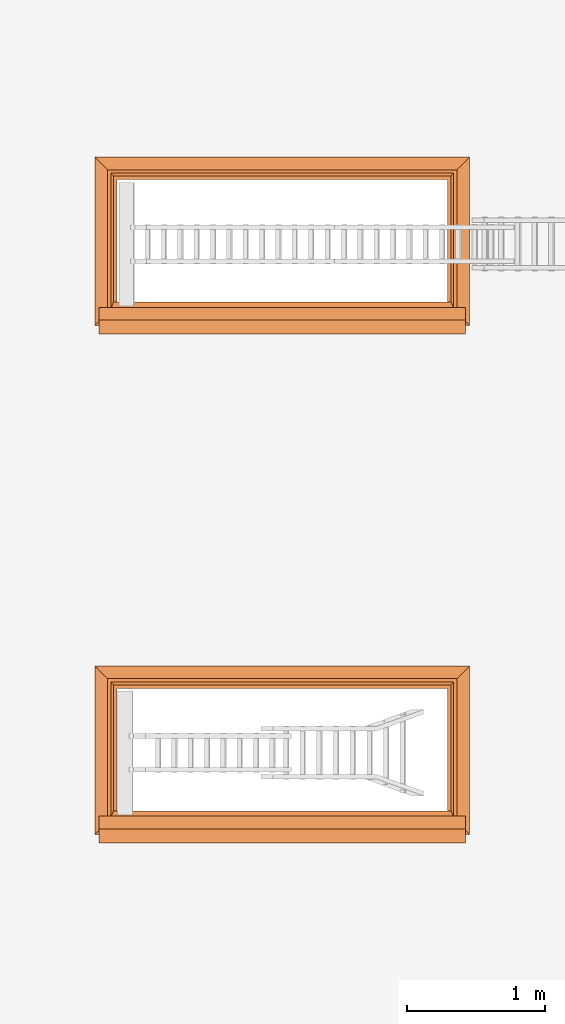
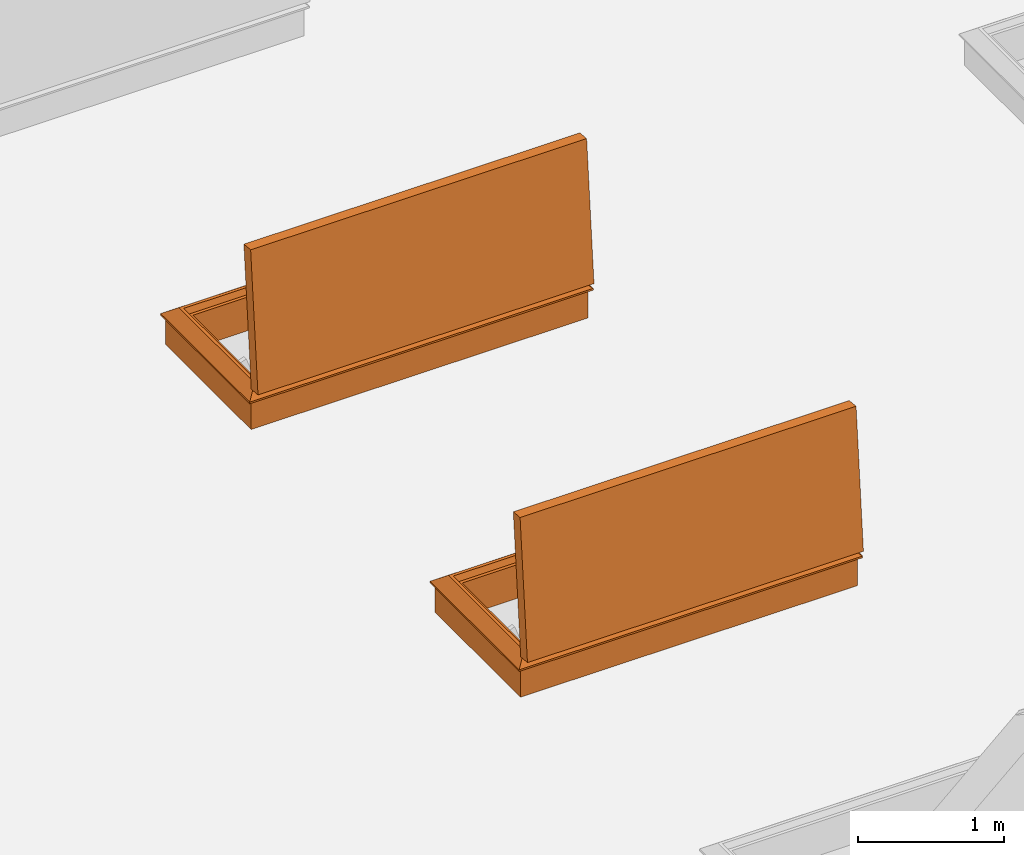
# One storey, part 18 of 28: 2 proxies.
"""IFC2X3 building model written with IfcOpenShell, lengths in millimetres."""

from ifc_helpers import new_model, entity, si_unit, converted_unit, derived_unit, direction, frame, origin, place, context, subcontext, project, spatial, faceted_brep, source, transform, mapped, type_object, type_shapes, element, save


model = new_model("IFC2X3")

# Units and contexts
model_context = context("Model", 3, precision=0.01, world=origin(), true_north=direction((6.12303176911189e-17, 1.0)))
body_context = subcontext(model_context, "Body", "Model", "MODEL_VIEW")
ifc_project = project(units=[si_unit("LENGTHUNIT", "METRE", prefix="MILLI"), si_unit("AREAUNIT", "SQUARE_METRE"), si_unit("VOLUMEUNIT", "CUBIC_METRE"), converted_unit("PLANEANGLEUNIT", "DEGREE", entity("IfcRatioMeasure", 0.0174532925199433), si_unit("PLANEANGLEUNIT", "RADIAN"), dimensions=[0, 0, 0, 0, 0, 0, 0]), si_unit("MASSUNIT", "GRAM", prefix="KILO"), derived_unit("MASSDENSITYUNIT", [(si_unit("MASSUNIT", "GRAM", prefix="KILO"), 1), (si_unit("LENGTHUNIT", "METRE"), -3)]), si_unit("TIMEUNIT", "SECOND"), si_unit("FREQUENCYUNIT", "HERTZ"), si_unit("THERMODYNAMICTEMPERATUREUNIT", "DEGREE_CELSIUS"), derived_unit("THERMALTRANSMITTANCEUNIT", [(si_unit("MASSUNIT", "GRAM", prefix="KILO"), 1), (si_unit("THERMODYNAMICTEMPERATUREUNIT", "KELVIN"), -1), (si_unit("TIMEUNIT", "SECOND"), -3)]), derived_unit("VOLUMETRICFLOWRATEUNIT", [(si_unit("LENGTHUNIT", "METRE"), 3), (si_unit("TIMEUNIT", "SECOND"), -1)]), si_unit("ELECTRICCURRENTUNIT", "AMPERE"), si_unit("ELECTRICVOLTAGEUNIT", "VOLT"), si_unit("POWERUNIT", "WATT"), si_unit("FORCEUNIT", "NEWTON", prefix="KILO"), si_unit("ILLUMINANCEUNIT", "LUX"), si_unit("LUMINOUSFLUXUNIT", "LUMEN"), si_unit("LUMINOUSINTENSITYUNIT", "CANDELA"), derived_unit("USERDEFINED", [(si_unit("MASSUNIT", "GRAM", prefix="KILO"), -1), (si_unit("LENGTHUNIT", "METRE"), -2), (si_unit("TIMEUNIT", "SECOND"), 3), (si_unit("LUMINOUSFLUXUNIT", "LUMEN"), 1)]), derived_unit("LINEARVELOCITYUNIT", [(si_unit("LENGTHUNIT", "METRE"), 1), (si_unit("TIMEUNIT", "SECOND"), -1)]), si_unit("PRESSUREUNIT", "PASCAL"), derived_unit("USERDEFINED", [(si_unit("LENGTHUNIT", "METRE"), -2), (si_unit("MASSUNIT", "GRAM", prefix="KILO"), 1), (si_unit("TIMEUNIT", "SECOND"), -2)])], contexts=[model_context])

# Site, building, storey
site_placement = place(None, origin())
site = spatial("IfcSite", under=ifc_project, at=site_placement, Name="Default", CompositionType="ELEMENT")
building_placement = place(site_placement, origin())
building = spatial("IfcBuilding", under=site, at=building_placement, CompositionType="ELEMENT")
storey_placement = place(building_placement, frame((0.0, 0.0, 4000.0)))
storey = spatial("IfcBuildingStorey", under=building, at=storey_placement, Name="Level 2", CompositionType="ELEMENT", Elevation=4000.0)

# Proxies
building_element_proxy_type_1 = type_object("IfcBuildingElementProxyType", Name="2400 x 900 2part Stair", PredefinedType="NOTDEFINED")
shared_shape_1 = source(origin(), body_context, "Body", "Brep", [
    faceted_brep([(-2421.30222365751, -351.544434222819, 276.006776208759), (-2421.30222365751, -361.481298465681, 288.427856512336), (-2421.30222365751, -362.009001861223, 290.420024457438), (-2421.30222365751, -361.907279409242, 292.478387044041), (-2421.30222365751, -354.714045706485, 338.058567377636), (-2421.30222365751, -353.91934137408, 339.862431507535), (-2421.30222365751, -352.710912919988, 341.419730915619), (-2421.30222365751, -351.160903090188, 342.637495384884), (-2421.30222365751, -349.361846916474, 343.443024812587), (-2421.30222365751, -347.421147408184, 343.788229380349), (-2421.30222365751, -345.454663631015, 343.65250049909), (-2421.30222365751, -343.579793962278, 343.043941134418), (-2421.30222365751, -341.908467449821, 341.998882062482), (-2421.30222365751, -340.540461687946, 340.579712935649), (-2421.30222365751, -339.557446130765, 338.871157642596), (-2421.30222365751, -339.01810645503, 336.975216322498), (-2421.30222365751, -338.954641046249, 335.00507599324), (-2421.30222365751, -339.3708387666, 333.078353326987), (-2421.30222365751, -340.241852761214, 331.310072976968), (-2421.30222365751, -340.511771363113, 328.317261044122), (-2421.30222365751, -338.595712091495, 326.002418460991), (-2421.30222365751, -304.692305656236, 313.488479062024), (-2385.21838034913, -304.692305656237, 313.488479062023), (-2385.21838034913, -351.544434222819, 276.006776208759), (-2385.21838034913, -338.595712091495, 326.002418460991), (-2385.21838034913, -340.241852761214, 331.310072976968), (-2385.21838034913, -340.511771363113, 328.317261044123), (-2385.21838034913, -353.91934137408, 339.862431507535), (-2385.21838034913, -354.714045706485, 338.058567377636), (-2385.21838034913, -352.710912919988, 341.419730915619), (-2385.21838034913, -349.361846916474, 343.443024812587), (-2385.21838034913, -347.421147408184, 343.788229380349), (-2385.21838034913, -351.160903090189, 342.637495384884), (-2385.21838034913, -345.454663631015, 343.65250049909), (-2385.21838034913, -343.579793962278, 343.043941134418), (-2385.21838034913, -340.540461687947, 340.579712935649), (-2385.21838034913, -341.908467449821, 341.998882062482), (-2385.21838034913, -339.557446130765, 338.871157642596), (-2385.21838034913, -338.954641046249, 335.00507599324), (-2385.21838034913, -339.3708387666, 333.078353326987), (-2385.21838034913, -339.01810645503, 336.975216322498), (-2398.68899764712, -361.907279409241, 292.478387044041), (-2385.21838034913, -361.907279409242, 292.478387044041), (-2385.21838034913, -362.009001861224, 290.420024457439), (-2405.69554851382, -362.019279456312, 290.525796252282), (-2385.21838034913, -361.481298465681, 288.427856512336), (-2407.83160635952, -361.48129846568, 288.427856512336)], [[[0, 1, 2, 3, 4, 5, 6, 7, 8, 9, 10, 11, 12, 13, 14, 15, 16, 17, 18, 19, 20, 21]], [[0, 21, 22, 23]], [[21, 20, 24, 22]], [[25, 26, 19, 18]], [[24, 20, 19, 26]], [[27, 5, 4, 28]], [[29, 6, 5, 27]], [[30, 31, 9, 8]], [[8, 7, 32, 30]], [[7, 6, 29, 32]], [[33, 10, 9, 31]], [[11, 10, 33, 34]], [[35, 13, 12, 36]], [[37, 14, 13, 35]], [[38, 39, 17, 16]], [[16, 15, 40, 38]], [[15, 14, 37, 40]], [[39, 25, 18, 17]], [[12, 11, 34, 36]], [[4, 3, 41, 42, 28]], [[41, 43, 42]], [[44, 45, 43]], [[43, 41, 44]], [[44, 2, 46]], [[3, 2, 44]], [[44, 46, 45]], [[3, 44, 41]], [[1, 46, 2]], [[1, 0, 23, 45, 46]], [[23, 22, 24, 26, 25, 39, 38, 40, 37, 35, 36, 34, 33, 31, 30, 32, 29, 27, 28, 42, 43, 45]]]),
    faceted_brep([(-264.700468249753, -351.544434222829, 276.006776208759), (-226.128712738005, -351.544434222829, 276.006776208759), (-226.128712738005, -361.481298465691, 288.427856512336), (-242.087238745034, -361.481298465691, 288.427856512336), (-264.700468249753, -361.481298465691, 288.427856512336), (-226.128712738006, -362.009001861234, 290.420024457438), (-226.128712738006, -361.907279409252, 292.478387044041), (-242.087239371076, -361.907279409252, 292.478387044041), (-248.60150558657, -362.009001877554, 290.420024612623), (-264.700468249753, -362.009001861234, 290.420024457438), (-264.700468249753, -361.907279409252, 292.47838704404), (-264.700468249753, -354.714045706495, 338.058567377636), (-226.128712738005, -354.714045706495, 338.058567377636), (-226.128712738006, -353.91934137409, 339.862431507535), (-264.700468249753, -353.91934137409, 339.862431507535), (-226.128712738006, -352.710912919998, 341.419730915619), (-264.700468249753, -352.710912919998, 341.419730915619), (-264.700468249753, -349.361846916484, 343.443024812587), (-264.700468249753, -351.160903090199, 342.637495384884), (-226.128712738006, -351.160903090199, 342.637495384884), (-226.128712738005, -349.361846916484, 343.443024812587), (-226.128712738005, -347.421147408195, 343.788229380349), (-264.700468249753, -347.421147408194, 343.788229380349), (-226.128712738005, -345.454663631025, 343.65250049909), (-264.700468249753, -345.454663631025, 343.65250049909), (-226.128712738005, -343.579793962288, 343.043941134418), (-264.700468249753, -343.579793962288, 343.043941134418), (-226.128712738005, -341.908467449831, 341.998882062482), (-264.700468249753, -341.908467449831, 341.998882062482), (-226.128712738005, -340.540461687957, 340.579712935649), (-264.700468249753, -340.540461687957, 340.579712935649), (-264.700468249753, -339.01810645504, 336.975216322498), (-264.700468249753, -339.557446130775, 338.871157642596), (-226.128712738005, -339.557446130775, 338.871157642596), (-226.128712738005, -339.01810645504, 336.975216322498), (-226.128712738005, -338.954641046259, 335.00507599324), (-264.700468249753, -338.954641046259, 335.00507599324), (-226.128712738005, -339.37083876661, 333.078353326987), (-264.700468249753, -339.37083876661, 333.078353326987), (-264.700468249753, -340.241852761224, 331.310072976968), (-226.128712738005, -340.241852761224, 331.310072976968), (-226.128712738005, -340.511771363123, 328.317261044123), (-264.700468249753, -340.511771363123, 328.317261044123), (-226.128712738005, -338.595712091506, 326.002418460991), (-264.700468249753, -338.595712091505, 326.002418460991), (-264.700468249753, -304.692305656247, 313.488479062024), (-226.128712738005, -304.692305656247, 313.488479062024)], [[[0, 1, 2, 3, 4]], [[2, 5, 3]], [[6, 7, 5]], [[4, 3, 8]], [[9, 4, 8]], [[8, 10, 9]], [[10, 8, 7]], [[7, 8, 5]], [[5, 8, 3]], [[11, 10, 7, 6, 12]], [[13, 14, 11, 12]], [[15, 16, 14, 13]], [[17, 18, 19, 20]], [[20, 21, 22, 17]], [[15, 19, 18, 16]], [[23, 24, 22, 21]], [[24, 23, 25, 26]], [[27, 28, 26, 25]], [[29, 30, 28, 27]], [[31, 32, 33, 34]], [[34, 35, 36, 31]], [[29, 33, 32, 30]], [[37, 38, 36, 35]], [[39, 38, 37, 40]], [[40, 41, 42, 39]], [[43, 44, 42, 41]], [[45, 44, 43, 46]], [[0, 45, 46, 1]], [[20, 19, 15, 13, 12, 6, 5, 2, 1, 46, 43, 41, 40, 37, 35, 34, 33, 29, 27, 25, 23, 21]], [[32, 31, 36, 38, 39, 42, 44, 45, 0, 4, 9, 10, 11, 14, 16, 18, 17, 22, 24, 26, 28, 30]]]),
    faceted_brep([(-61.2697623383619, 753.447095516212, 328.0), (30.7302376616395, 845.447095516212, 254.4), (-2693.26976233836, 845.447095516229, 254.4), (-2601.26976233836, 753.447095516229, 328.0), (-105.269762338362, 709.447095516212, 282.0), (-85.7439207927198, 728.972937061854, 328.0), (-2576.795603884, 728.97293706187, 328.0), (-2557.26976233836, 709.447095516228, 282.0), (-131.269762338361, 683.447095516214, 0.0), (-131.269762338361, 683.447095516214, 282.0), (-2531.26976233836, 683.447095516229, 282.0), (-2531.26976233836, 683.447095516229, 0.0), (4.73023766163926, 819.447095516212, 240.0), (4.73023766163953, 819.447095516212, 0.0), (-2667.26976233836, 819.447095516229, 0.0), (-2667.26976233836, 819.447095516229, 240.0), (30.7302376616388, 845.447095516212, 240.0), (-2693.26976233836, 845.447095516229, 240.0), (-2693.26976233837, -378.552904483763, 254.4), (-2601.26976233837, -286.552904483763, 328.0), (-2576.79560388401, -262.078746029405, 328.0), (-2557.26976233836, -242.552904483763, 282.0), (-2531.26976233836, -216.552904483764, 282.0), (-2531.26976233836, -216.552904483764, 0.0), (-2667.26976233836, -352.552904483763, 0.0), (-2667.26976233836, -352.552904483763, 240.0), (-2693.26976233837, -378.552904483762, 240.0), (30.7302376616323, -378.552904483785, 254.4), (-61.2697623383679, -286.552904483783, 328.0), (-85.7439207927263, -262.078746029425, 328.0), (-105.269762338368, -242.552904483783, 282.0), (-131.269762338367, -216.552904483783, 282.0), (-131.269762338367, -216.552904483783, 0.0), (4.73023766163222, -352.552904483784, 0.0), (4.73023766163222, -352.552904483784, 240.0), (30.7302376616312, -378.552904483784, 240.0)], [[[0, 1, 2, 3]], [[4, 5, 6, 7]], [[8, 9, 10, 11]], [[12, 13, 14, 15]], [[1, 16, 17, 2]], [[3, 2, 18, 19]], [[7, 6, 20, 21]], [[11, 10, 22, 23]], [[15, 14, 24, 25]], [[2, 17, 26, 18]], [[19, 18, 27, 28]], [[21, 20, 29, 30]], [[23, 22, 31, 32]], [[25, 24, 33, 34]], [[18, 26, 35, 27]], [[28, 27, 1, 0]], [[3, 19, 28, 0], [5, 29, 20, 6]], [[30, 29, 5, 4]], [[7, 21, 30, 4], [9, 31, 22, 10]], [[32, 31, 9, 8]], [[11, 23, 32, 8], [13, 33, 24, 14]], [[34, 33, 13, 12]], [[15, 25, 34, 12], [16, 35, 26, 17]], [[27, 35, 16, 1]]], outer=[[True], [True], [True], [True], [True], [True], [True], [True], [True], [True], [True], [True], [True], [True], [True], [True], [True, False], [True], [True, False], [True], [False, True], [True], [False, True], [True]]),
    faceted_brep([(-2533.97259076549, -350.282302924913, 1367.68564257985), (-2533.97259076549, -428.818342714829, 470.014600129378), (-128.272590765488, -428.81834271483, 470.014600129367), (-128.272590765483, -350.282302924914, 1367.68564257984), (-2533.97259076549, -211.412762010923, 1355.53613204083), (-128.272590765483, -211.412762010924, 1355.53613204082), (-128.272590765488, -289.94880180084, 457.865089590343), (-2533.97259076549, -289.948801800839, 457.865089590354)], [[[0, 1, 2, 3]], [[4, 5, 6, 7]], [[1, 0, 4, 7]], [[2, 1, 7, 6]], [[3, 2, 6, 5]], [[0, 3, 5, 4]]]),
    faceted_brep([(-128.272590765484, -211.412762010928, 1355.53613204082), (-128.272590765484, -350.282302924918, 1367.68564257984), (-2533.97259076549, -350.282302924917, 1367.68564257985), (-2533.97259076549, -211.412762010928, 1355.53613204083), (-85.2725907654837, -253.888499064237, 1402.41653052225), (-102.872590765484, -209.199006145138, 1380.83947737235), (-2559.37259076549, -209.199006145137, 1380.83947737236), (-2576.97259076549, -253.888499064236, 1402.41653052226), (0.727409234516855, -339.03921211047, 1496.19475863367), (0.72740923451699, -246.393105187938, 1488.08927455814), (-2662.97259076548, -246.393105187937, 1488.08927455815), (-2662.97259076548, -339.039212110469, 1496.19475863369), (-2533.97259076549, -428.818342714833, 470.014600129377), (-2533.97259076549, -289.948801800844, 457.865089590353), (-2559.37259076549, -292.162557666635, 432.561744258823), (-2576.97259076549, -339.919932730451, 419.0727440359), (-2662.97259076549, -347.415326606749, 333.40000000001), (-2662.97259076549, -440.061433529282, 341.505484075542), (-128.272590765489, -428.818342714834, 470.014600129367), (-128.272590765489, -289.948801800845, 457.865089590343), (-102.872590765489, -292.162557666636, 432.561744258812), (-85.2725907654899, -339.919932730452, 419.072744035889), (0.727409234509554, -347.41532660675, 333.399999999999), (0.727409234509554, -440.061433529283, 341.505484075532)], [[[0, 1, 2, 3]], [[4, 5, 6, 7]], [[8, 9, 10, 11]], [[3, 2, 12, 13]], [[7, 6, 14, 15]], [[11, 10, 16, 17]], [[13, 12, 18, 19]], [[15, 14, 20, 21]], [[17, 16, 22, 23]], [[19, 18, 1, 0]], [[3, 13, 19, 0], [5, 20, 14, 6]], [[21, 20, 5, 4]], [[7, 15, 21, 4], [9, 22, 16, 10]], [[23, 22, 9, 8]], [[1, 18, 12, 2], [11, 17, 23, 8]]], outer=[[True], [True], [True], [True], [True], [True], [True], [True], [True], [True], [False, True], [True], [False, True], [True], [False, True]]),
])
type_shapes(building_element_proxy_type_1, [shared_shape_1])
proxy_1_placement = place(storey_placement, frame((-16873.1072346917, 5640.33582063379, 400.0)))
element("IfcBuildingElementProxy", 1, at=proxy_1_placement, inside=storey, type_object=building_element_proxy_type_1, Name="5_Topaccess_dakluik_2400x900_Staka:2400 x 900 2part Stair", ObjectType="2400 x 900 2part Stair", context=body_context, shape_type="MappedRepresentation", body=[
    mapped(shared_shape_1, transform((0.0, 0.0, 0.0), scale=1.0)),
])
building_element_proxy_type_2 = type_object("IfcBuildingElementProxyType", Name="2400 x 900 3part Stair", PredefinedType="NOTDEFINED")
shared_shape_2 = source(origin(), body_context, "Body", "Brep", [
    faceted_brep([(-2421.30222365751, -351.544434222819, 276.006776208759), (-2421.30222365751, -361.481298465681, 288.427856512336), (-2421.30222365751, -362.009001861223, 290.420024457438), (-2421.30222365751, -361.907279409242, 292.478387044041), (-2421.30222365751, -354.714045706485, 338.058567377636), (-2421.30222365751, -353.91934137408, 339.862431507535), (-2421.30222365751, -352.710912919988, 341.419730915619), (-2421.30222365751, -351.160903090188, 342.637495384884), (-2421.30222365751, -349.361846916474, 343.443024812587), (-2421.30222365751, -347.421147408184, 343.788229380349), (-2421.30222365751, -345.454663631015, 343.65250049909), (-2421.30222365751, -343.579793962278, 343.043941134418), (-2421.30222365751, -341.908467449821, 341.998882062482), (-2421.30222365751, -340.540461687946, 340.579712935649), (-2421.30222365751, -339.557446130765, 338.871157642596), (-2421.30222365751, -339.01810645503, 336.975216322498), (-2421.30222365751, -338.954641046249, 335.00507599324), (-2421.30222365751, -339.3708387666, 333.078353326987), (-2421.30222365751, -340.241852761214, 331.310072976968), (-2421.30222365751, -340.511771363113, 328.317261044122), (-2421.30222365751, -338.595712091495, 326.002418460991), (-2421.30222365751, -304.692305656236, 313.488479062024), (-2385.21838034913, -304.692305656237, 313.488479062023), (-2385.21838034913, -351.544434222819, 276.006776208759), (-2385.21838034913, -338.595712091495, 326.002418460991), (-2385.21838034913, -340.241852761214, 331.310072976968), (-2385.21838034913, -340.511771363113, 328.317261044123), (-2385.21838034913, -353.91934137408, 339.862431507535), (-2385.21838034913, -354.714045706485, 338.058567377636), (-2385.21838034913, -352.710912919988, 341.419730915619), (-2385.21838034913, -349.361846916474, 343.443024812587), (-2385.21838034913, -347.421147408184, 343.788229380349), (-2385.21838034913, -351.160903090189, 342.637495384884), (-2385.21838034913, -345.454663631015, 343.65250049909), (-2385.21838034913, -343.579793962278, 343.043941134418), (-2385.21838034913, -340.540461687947, 340.579712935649), (-2385.21838034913, -341.908467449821, 341.998882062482), (-2385.21838034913, -339.557446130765, 338.871157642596), (-2385.21838034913, -338.954641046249, 335.00507599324), (-2385.21838034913, -339.3708387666, 333.078353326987), (-2385.21838034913, -339.01810645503, 336.975216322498), (-2398.68899764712, -361.907279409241, 292.478387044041), (-2385.21838034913, -361.907279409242, 292.478387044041), (-2385.21838034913, -362.009001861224, 290.420024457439), (-2405.69554851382, -362.019279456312, 290.525796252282), (-2385.21838034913, -361.481298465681, 288.427856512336), (-2407.83160635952, -361.48129846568, 288.427856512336)], [[[0, 1, 2, 3, 4, 5, 6, 7, 8, 9, 10, 11, 12, 13, 14, 15, 16, 17, 18, 19, 20, 21]], [[0, 21, 22, 23]], [[21, 20, 24, 22]], [[25, 26, 19, 18]], [[24, 20, 19, 26]], [[27, 5, 4, 28]], [[29, 6, 5, 27]], [[30, 31, 9, 8]], [[8, 7, 32, 30]], [[7, 6, 29, 32]], [[33, 10, 9, 31]], [[11, 10, 33, 34]], [[35, 13, 12, 36]], [[37, 14, 13, 35]], [[38, 39, 17, 16]], [[16, 15, 40, 38]], [[15, 14, 37, 40]], [[39, 25, 18, 17]], [[12, 11, 34, 36]], [[4, 3, 41, 42, 28]], [[41, 43, 42]], [[44, 45, 43]], [[43, 41, 44]], [[44, 2, 46]], [[3, 2, 44]], [[44, 46, 45]], [[3, 44, 41]], [[1, 46, 2]], [[1, 0, 23, 45, 46]], [[23, 22, 24, 26, 25, 39, 38, 40, 37, 35, 36, 34, 33, 31, 30, 32, 29, 27, 28, 42, 43, 45]]]),
    faceted_brep([(-264.700468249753, -351.54443422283, 276.006776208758), (-264.700468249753, -304.692305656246, 313.488479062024), (-226.128712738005, -304.692305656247, 313.488479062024), (-226.128712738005, -351.544434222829, 276.006776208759), (-264.700468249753, -338.595712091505, 326.002418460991), (-226.128712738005, -338.595712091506, 326.002418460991), (-226.128712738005, -340.241852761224, 331.310072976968), (-226.128712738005, -340.511771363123, 328.317261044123), (-264.700468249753, -340.511771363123, 328.317261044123), (-264.700468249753, -340.241852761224, 331.310072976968), (-226.128712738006, -353.91934137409, 339.862431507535), (-264.700468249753, -353.91934137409, 339.862431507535), (-264.700468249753, -354.714045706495, 338.058567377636), (-226.128712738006, -354.714045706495, 338.058567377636), (-226.128712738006, -352.710912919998, 341.419730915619), (-264.700468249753, -352.710912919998, 341.419730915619), (-264.700468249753, -349.361846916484, 343.443024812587), (-264.700468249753, -351.160903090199, 342.637495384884), (-226.128712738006, -351.160903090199, 342.637495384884), (-226.128712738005, -349.361846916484, 343.443024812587), (-226.128712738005, -347.421147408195, 343.788229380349), (-264.700468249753, -347.421147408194, 343.788229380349), (-226.128712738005, -345.454663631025, 343.65250049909), (-264.700468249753, -345.454663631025, 343.65250049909), (-226.128712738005, -343.579793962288, 343.043941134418), (-264.700468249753, -343.579793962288, 343.043941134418), (-226.128712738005, -341.908467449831, 341.998882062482), (-264.700468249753, -341.908467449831, 341.998882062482), (-226.128712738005, -340.540461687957, 340.579712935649), (-264.700468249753, -340.540461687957, 340.579712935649), (-264.700468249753, -339.01810645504, 336.975216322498), (-264.700468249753, -339.557446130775, 338.871157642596), (-226.128712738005, -339.557446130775, 338.871157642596), (-226.128712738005, -339.01810645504, 336.975216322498), (-226.128712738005, -338.954641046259, 335.00507599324), (-264.700468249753, -338.954641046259, 335.00507599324), (-226.128712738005, -339.37083876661, 333.078353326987), (-264.700468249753, -339.37083876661, 333.078353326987), (-264.700468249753, -361.907279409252, 292.478387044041), (-242.087239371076, -361.907279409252, 292.478387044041), (-226.128712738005, -361.907279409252, 292.478387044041), (-226.128712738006, -361.481298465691, 288.427856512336), (-226.128712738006, -362.009001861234, 290.420024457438), (-242.087238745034, -361.481298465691, 288.427856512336), (-264.700468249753, -361.481298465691, 288.427856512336), (-248.60150558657, -362.009001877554, 290.420024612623), (-264.700468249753, -362.009001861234, 290.420024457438)], [[[0, 1, 2, 3]], [[1, 4, 5, 2]], [[6, 7, 8, 9]], [[5, 4, 8, 7]], [[10, 11, 12, 13]], [[14, 15, 11, 10]], [[16, 17, 18, 19]], [[19, 20, 21, 16]], [[14, 18, 17, 15]], [[22, 23, 21, 20]], [[23, 22, 24, 25]], [[26, 27, 25, 24]], [[28, 29, 27, 26]], [[30, 31, 32, 33]], [[33, 34, 35, 30]], [[28, 32, 31, 29]], [[36, 37, 35, 34]], [[9, 37, 36, 6]], [[12, 38, 39, 40, 13]], [[41, 42, 43]], [[40, 39, 42]], [[44, 43, 45]], [[46, 44, 45]], [[45, 38, 46]], [[38, 45, 39]], [[39, 45, 42]], [[42, 45, 43]], [[0, 3, 41, 43, 44]], [[19, 18, 14, 10, 13, 40, 42, 41, 3, 2, 5, 7, 6, 36, 34, 33, 32, 28, 26, 24, 22, 20]], [[31, 30, 35, 37, 9, 8, 4, 1, 0, 44, 46, 38, 12, 11, 15, 17, 16, 21, 23, 25, 27, 29]]]),
    faceted_brep([(-61.2697623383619, 753.447095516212, 328.0), (30.7302376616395, 845.447095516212, 254.4), (-2693.26976233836, 845.447095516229, 254.4), (-2601.26976233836, 753.447095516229, 328.0), (-105.269762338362, 709.447095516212, 282.0), (-85.7439207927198, 728.972937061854, 328.0), (-2576.795603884, 728.97293706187, 328.0), (-2557.26976233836, 709.447095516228, 282.0), (-131.269762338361, 683.447095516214, 0.0), (-131.269762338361, 683.447095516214, 282.0), (-2531.26976233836, 683.447095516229, 282.0), (-2531.26976233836, 683.447095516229, 0.0), (4.73023766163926, 819.447095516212, 240.0), (4.73023766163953, 819.447095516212, 0.0), (-2667.26976233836, 819.447095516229, 0.0), (-2667.26976233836, 819.447095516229, 240.0), (30.7302376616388, 845.447095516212, 240.0), (-2693.26976233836, 845.447095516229, 240.0), (-2693.26976233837, -378.552904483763, 254.4), (-2601.26976233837, -286.552904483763, 328.0), (-2576.79560388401, -262.078746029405, 328.0), (-2557.26976233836, -242.552904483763, 282.0), (-2531.26976233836, -216.552904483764, 282.0), (-2531.26976233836, -216.552904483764, 0.0), (-2667.26976233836, -352.552904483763, 0.0), (-2667.26976233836, -352.552904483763, 240.0), (-2693.26976233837, -378.552904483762, 240.0), (30.7302376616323, -378.552904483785, 254.4), (-61.2697623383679, -286.552904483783, 328.0), (-85.7439207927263, -262.078746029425, 328.0), (-105.269762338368, -242.552904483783, 282.0), (-131.269762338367, -216.552904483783, 282.0), (-131.269762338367, -216.552904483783, 0.0), (4.73023766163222, -352.552904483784, 0.0), (4.73023766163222, -352.552904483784, 240.0), (30.7302376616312, -378.552904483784, 240.0)], [[[0, 1, 2, 3]], [[4, 5, 6, 7]], [[8, 9, 10, 11]], [[12, 13, 14, 15]], [[1, 16, 17, 2]], [[3, 2, 18, 19]], [[7, 6, 20, 21]], [[11, 10, 22, 23]], [[15, 14, 24, 25]], [[2, 17, 26, 18]], [[19, 18, 27, 28]], [[21, 20, 29, 30]], [[23, 22, 31, 32]], [[25, 24, 33, 34]], [[18, 26, 35, 27]], [[28, 27, 1, 0]], [[3, 19, 28, 0], [5, 29, 20, 6]], [[30, 29, 5, 4]], [[7, 21, 30, 4], [9, 31, 22, 10]], [[32, 31, 9, 8]], [[11, 23, 32, 8], [13, 33, 24, 14]], [[34, 33, 13, 12]], [[15, 25, 34, 12], [16, 35, 26, 17]], [[27, 35, 16, 1]]], outer=[[True], [True], [True], [True], [True], [True], [True], [True], [True], [True], [True], [True], [True], [True], [True], [True], [True, False], [True], [True, False], [True], [False, True], [True], [False, True], [True]]),
    faceted_brep([(-2533.97259076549, -350.282302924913, 1367.68564257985), (-2533.97259076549, -428.818342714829, 470.014600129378), (-128.272590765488, -428.81834271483, 470.014600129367), (-128.272590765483, -350.282302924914, 1367.68564257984), (-2533.97259076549, -211.412762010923, 1355.53613204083), (-128.272590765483, -211.412762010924, 1355.53613204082), (-128.272590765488, -289.94880180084, 457.865089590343), (-2533.97259076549, -289.948801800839, 457.865089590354)], [[[0, 1, 2, 3]], [[4, 5, 6, 7]], [[1, 0, 4, 7]], [[2, 1, 7, 6]], [[3, 2, 6, 5]], [[0, 3, 5, 4]]]),
    faceted_brep([(-128.272590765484, -211.412762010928, 1355.53613204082), (-128.272590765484, -350.282302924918, 1367.68564257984), (-2533.97259076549, -350.282302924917, 1367.68564257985), (-2533.97259076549, -211.412762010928, 1355.53613204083), (-85.2725907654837, -253.888499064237, 1402.41653052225), (-102.872590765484, -209.199006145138, 1380.83947737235), (-2559.37259076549, -209.199006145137, 1380.83947737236), (-2576.97259076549, -253.888499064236, 1402.41653052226), (0.727409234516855, -339.03921211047, 1496.19475863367), (0.72740923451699, -246.393105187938, 1488.08927455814), (-2662.97259076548, -246.393105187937, 1488.08927455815), (-2662.97259076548, -339.039212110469, 1496.19475863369), (-2533.97259076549, -428.818342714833, 470.014600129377), (-2533.97259076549, -289.948801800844, 457.865089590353), (-2559.37259076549, -292.162557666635, 432.561744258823), (-2576.97259076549, -339.919932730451, 419.0727440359), (-2662.97259076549, -347.415326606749, 333.40000000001), (-2662.97259076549, -440.061433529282, 341.505484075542), (-128.272590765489, -428.818342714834, 470.014600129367), (-128.272590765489, -289.948801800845, 457.865089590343), (-102.872590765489, -292.162557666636, 432.561744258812), (-85.2725907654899, -339.919932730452, 419.072744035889), (0.727409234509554, -347.41532660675, 333.399999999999), (0.727409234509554, -440.061433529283, 341.505484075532)], [[[0, 1, 2, 3]], [[4, 5, 6, 7]], [[8, 9, 10, 11]], [[3, 2, 12, 13]], [[7, 6, 14, 15]], [[11, 10, 16, 17]], [[13, 12, 18, 19]], [[15, 14, 20, 21]], [[17, 16, 22, 23]], [[19, 18, 1, 0]], [[3, 13, 19, 0], [5, 20, 14, 6]], [[21, 20, 5, 4]], [[7, 15, 21, 4], [9, 22, 16, 10]], [[23, 22, 9, 8]], [[1, 18, 12, 2], [11, 17, 23, 8]]], outer=[[True], [True], [True], [True], [True], [True], [True], [True], [True], [True], [False, True], [True], [False, True], [True], [False, True]]),
])
type_shapes(building_element_proxy_type_2, [shared_shape_2])
proxy_2_placement = place(storey_placement, frame((-16873.1072346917, 9340.33582063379, 400.0)))
element("IfcBuildingElementProxy", 2, at=proxy_2_placement, inside=storey, type_object=building_element_proxy_type_2, Name="5_Topaccess_dakluik_2400x900_Staka:2400 x 900 3part Stair", ObjectType="2400 x 900 3part Stair", context=body_context, shape_type="MappedRepresentation", body=[
    mapped(shared_shape_2, transform((0.0, 0.0, 0.0), scale=1.0)),
])

save(model, "model.ifc")
